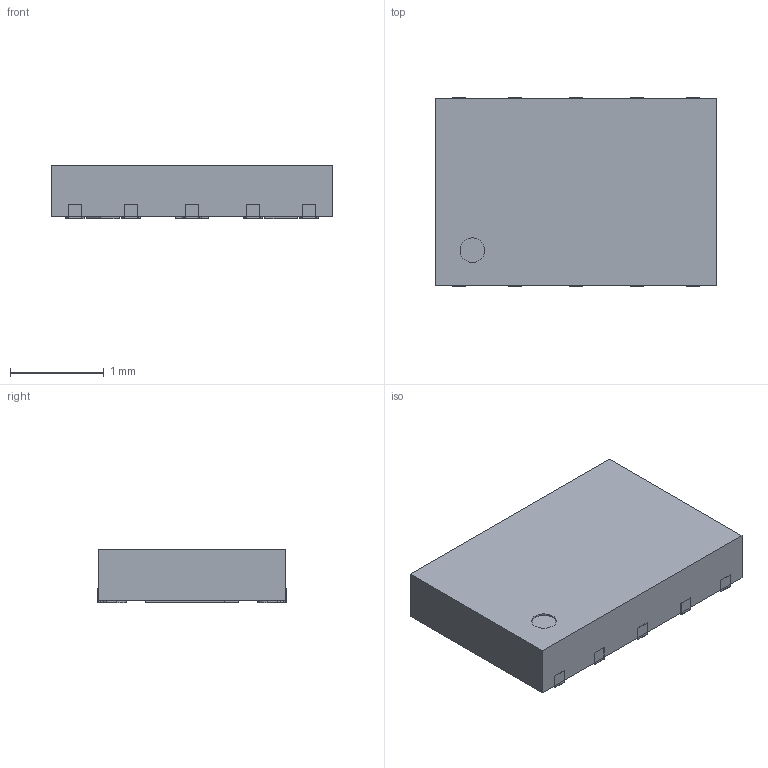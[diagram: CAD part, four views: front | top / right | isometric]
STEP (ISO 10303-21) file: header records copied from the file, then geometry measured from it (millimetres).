
FILE_DESCRIPTION(/* description */ ('Unknown'),/* implementation_level */ '2;1');
FILE_NAME(/* name */ 'DFN3020-10L',/* time_stamp */ '2025-04-16T13:14:14+08:00',/* author */ ('Unknown'),/* organization */ ('Unknown'),/* preprocessor_version */ 'ST-DEVELOPER v18.104',/* originating_system */ 'Solid Edge',/* authorisation */ 'Unknown');
FILE_SCHEMA (('AUTOMOTIVE_DESIGN {1 0 10303 214 3 1 1}'));
Length unit declared in the file: millimetre
Products named in the file (1): DFN3020-10L
Bounding box: 3 x 2 x 0.57 mm (x, y, z)
Volume: 3.5 mm3; surface area: 23.6 mm2
Topology: 24 solids, 24 shells, 207 faces, 474 edges, 316 vertices
Faces by surface type: plane 176, cylinder 31
Full cylindrical faces by diameter (mm): 0.262 x1
Entity records: 5911 total; most frequent: CARTESIAN_POINT 997, DIRECTION 951, ORIENTED_EDGE 946, EDGE_CURVE 473, LINE 411, VECTOR 411, VERTEX_POINT 316, AXIS2_PLACEMENT_3D 270
